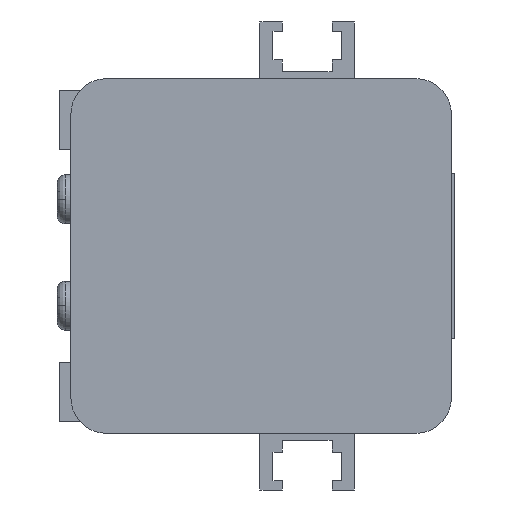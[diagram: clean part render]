
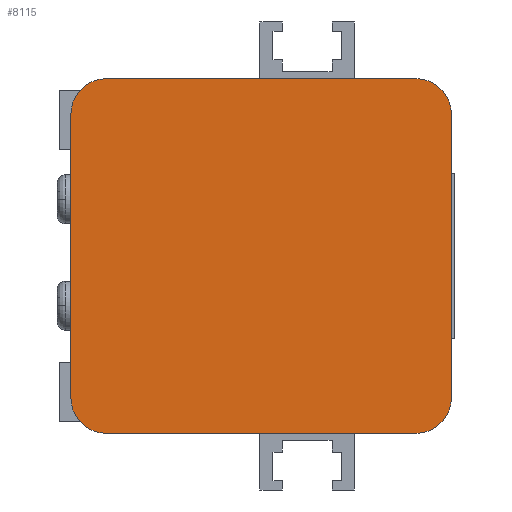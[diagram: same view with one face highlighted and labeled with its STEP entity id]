
A CAD part, left-side view. The second image highlights one B-rep face of the part: STEP entity #8115.
In plain terms, the highlighted planar face has unit normal (-1, 0, 0) as drawn and (0, 0, -1) by its records, which use the part's own axes.
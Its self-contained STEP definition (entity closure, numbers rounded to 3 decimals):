
#646=LINE('',#12401,#1430);
#652=LINE('',#12415,#1436);
#655=LINE('',#12428,#1439);
#689=LINE('',#12498,#1473);
#1430=VECTOR('',#9529,26.2);
#1436=VECTOR('',#9543,24.);
#1439=VECTOR('',#9562,26.2);
#1473=VECTOR('',#9604,24.);
#2066=PLANE('',#8646);
#2532=FACE_OUTER_BOUND('',#3028,.T.);
#3028=EDGE_LOOP('',(#6223,#6224,#6225,#6226,#6227,#6228,#6229,#6230));
#3436=CIRCLE('',#8633,3.);
#3441=CIRCLE('',#8642,3.);
#3442=CIRCLE('',#8647,3.);
#3443=CIRCLE('',#8648,3.);
#3815=VERTEX_POINT('',#12399);
#3816=VERTEX_POINT('',#12400);
#3819=VERTEX_POINT('',#12409);
#3820=VERTEX_POINT('',#12414);
#3821=VERTEX_POINT('',#12423);
#3822=VERTEX_POINT('',#12427);
#3853=VERTEX_POINT('',#12495);
#3854=VERTEX_POINT('',#12497);
#4730=EDGE_CURVE('',#3815,#3816,#646,.T.);
#4735=EDGE_CURVE('',#3816,#3819,#3436,.T.);
#4738=EDGE_CURVE('',#3819,#3820,#652,.T.);
#4743=EDGE_CURVE('',#3820,#3821,#3441,.T.);
#4745=EDGE_CURVE('',#3821,#3822,#655,.T.);
#4779=EDGE_CURVE('',#3853,#3815,#3442,.T.);
#4780=EDGE_CURVE('',#3854,#3853,#689,.T.);
#4781=EDGE_CURVE('',#3822,#3854,#3443,.T.);
#6223=ORIENTED_EDGE('',*,*,#4743,.F.);
#6224=ORIENTED_EDGE('',*,*,#4738,.F.);
#6225=ORIENTED_EDGE('',*,*,#4735,.F.);
#6226=ORIENTED_EDGE('',*,*,#4730,.F.);
#6227=ORIENTED_EDGE('',*,*,#4779,.F.);
#6228=ORIENTED_EDGE('',*,*,#4780,.F.);
#6229=ORIENTED_EDGE('',*,*,#4781,.F.);
#6230=ORIENTED_EDGE('',*,*,#4745,.F.);
#8115=ADVANCED_FACE('',(#2532),#2066,.F.);
#8633=AXIS2_PLACEMENT_3D('',#12410,#9536,#9537);
#8642=AXIS2_PLACEMENT_3D('',#12424,#9557,#9558);
#8646=AXIS2_PLACEMENT_3D('',#12494,#9600,#9601);
#8647=AXIS2_PLACEMENT_3D('',#12496,#9602,#9603);
#8648=AXIS2_PLACEMENT_3D('',#12499,#9605,#9606);
#9529=DIRECTION('',(0.,1.,0.));
#9536=DIRECTION('center_axis',(0.,0.,1.));
#9537=DIRECTION('ref_axis',(0.,-1.,0.));
#9543=DIRECTION('',(-1.,0.,0.));
#9557=DIRECTION('center_axis',(0.,0.,1.));
#9558=DIRECTION('ref_axis',(1.,0.,0.));
#9562=DIRECTION('',(0.,-1.,0.));
#9600=DIRECTION('center_axis',(0.,0.,1.));
#9601=DIRECTION('ref_axis',(1.,0.,0.));
#9602=DIRECTION('center_axis',(0.,0.,1.));
#9603=DIRECTION('ref_axis',(-1.,0.,0.));
#9604=DIRECTION('',(1.,0.,0.));
#9605=DIRECTION('center_axis',(0.,0.,1.));
#9606=DIRECTION('ref_axis',(0.,1.,0.));
#12399=CARTESIAN_POINT('',(17.105,-11.4,-280.));
#12400=CARTESIAN_POINT('',(17.105,14.8,-280.));
#12401=CARTESIAN_POINT('',(17.105,-11.4,-280.));
#12409=CARTESIAN_POINT('',(14.105,17.8,-280.));
#12410=CARTESIAN_POINT('Origin',(14.105,14.8,-280.));
#12414=CARTESIAN_POINT('',(-9.895,17.8,-280.));
#12415=CARTESIAN_POINT('',(14.105,17.8,-280.));
#12423=CARTESIAN_POINT('',(-12.895,14.8,-280.));
#12424=CARTESIAN_POINT('Origin',(-9.895,14.8,-280.));
#12427=CARTESIAN_POINT('',(-12.895,-11.4,-280.));
#12428=CARTESIAN_POINT('',(-12.895,14.8,-280.));
#12494=CARTESIAN_POINT('Origin',(2.105,1.7,-280.));
#12495=CARTESIAN_POINT('',(14.105,-14.4,-280.));
#12496=CARTESIAN_POINT('Origin',(14.105,-11.4,-280.));
#12497=CARTESIAN_POINT('',(-9.895,-14.4,-280.));
#12498=CARTESIAN_POINT('',(-9.895,-14.4,-280.));
#12499=CARTESIAN_POINT('Origin',(-9.895,-11.4,-280.));
